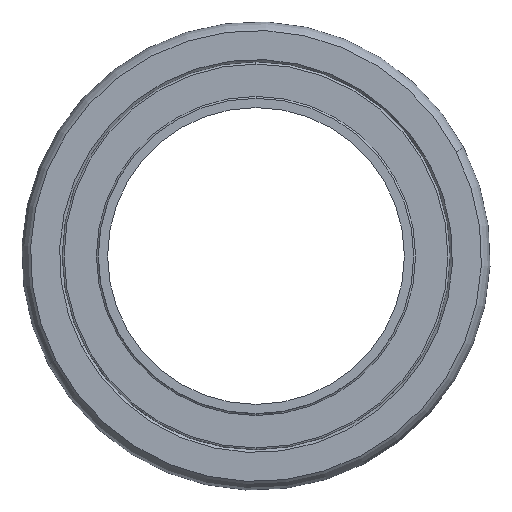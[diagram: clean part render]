
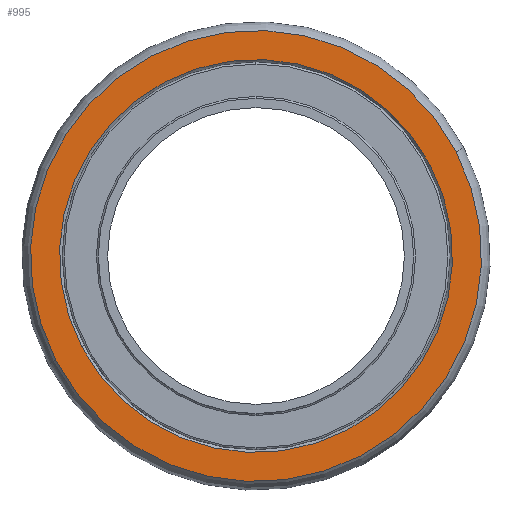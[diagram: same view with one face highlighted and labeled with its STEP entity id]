
A CAD part, left-side view. The second image highlights one B-rep face of the part: STEP entity #995.
In plain terms, the highlighted planar face has unit normal (-1, 0, 0).
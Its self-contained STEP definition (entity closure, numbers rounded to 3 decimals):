
#238=CARTESIAN_POINT('',(-5.95,21.566,-11.229));
#239=VERTEX_POINT('',#238);
#247=CARTESIAN_POINT('',(-5.95,-21.566,11.229));
#248=VERTEX_POINT('',#247);
#249=CARTESIAN_POINT('',(-5.95,0.,0.));
#250=DIRECTION('',(1.,0.,0.));
#251=DIRECTION('',(0.,-0.462,-0.887));
#252=AXIS2_PLACEMENT_3D('',#249,#250,#251);
#253=CIRCLE('',#252,24.314);
#254=EDGE_CURVE('',#239,#248,#253,.T.);
#279=CARTESIAN_POINT('',(-5.95,-11.229,-21.566));
#280=VERTEX_POINT('',#279);
#281=CARTESIAN_POINT('',(-5.95,0.,0.));
#282=DIRECTION('',(1.,0.,0.));
#283=DIRECTION('',(0.,-0.462,-0.887));
#284=AXIS2_PLACEMENT_3D('',#281,#282,#283);
#285=CIRCLE('',#284,24.314);
#286=EDGE_CURVE('',#248,#280,#285,.T.);
#288=CARTESIAN_POINT('',(-5.95,0.,0.));
#289=DIRECTION('',(1.,0.,0.));
#290=DIRECTION('',(0.,-0.462,-0.887));
#291=AXIS2_PLACEMENT_3D('',#288,#289,#290);
#292=CIRCLE('',#291,24.314);
#293=EDGE_CURVE('',#280,#239,#292,.T.);
#889=CARTESIAN_POINT('',(-5.95,-18.791,9.784));
#890=VERTEX_POINT('',#889);
#906=CARTESIAN_POINT('',(-5.95,18.791,-9.784));
#907=VERTEX_POINT('',#906);
#915=CARTESIAN_POINT('',(-5.95,-9.784,-18.791));
#916=VERTEX_POINT('',#915);
#917=CARTESIAN_POINT('',(-5.95,0.,0.));
#918=DIRECTION('',(1.0,0.,0.));
#919=DIRECTION('',(0.,-0.462,-0.887));
#920=AXIS2_PLACEMENT_3D('',#917,#918,#919);
#921=CIRCLE('',#920,21.186);
#922=EDGE_CURVE('',#916,#907,#921,.T.);
#924=CARTESIAN_POINT('',(-5.95,0.,0.));
#925=DIRECTION('',(1.0,0.,0.));
#926=DIRECTION('',(0.,-0.462,-0.887));
#927=AXIS2_PLACEMENT_3D('',#924,#925,#926);
#928=CIRCLE('',#927,21.186);
#929=EDGE_CURVE('',#890,#916,#928,.T.);
#940=CARTESIAN_POINT('',(-5.95,0.,0.));
#941=DIRECTION('',(1.0,0.,0.));
#942=DIRECTION('',(0.,-0.462,-0.887));
#943=AXIS2_PLACEMENT_3D('',#940,#941,#942);
#944=CIRCLE('',#943,21.186);
#945=EDGE_CURVE('',#907,#890,#944,.T.);
#980=CARTESIAN_POINT('',(-5.95,-10.507,-20.178));
#981=DIRECTION('',(-1.0,0.0,0.0));
#982=DIRECTION('',(0.0,0.887,-0.462));
#983=AXIS2_PLACEMENT_3D('',#980,#981,#982);
#984=PLANE('',#983);
#985=ORIENTED_EDGE('',*,*,#293,.F.);
#986=ORIENTED_EDGE('',*,*,#286,.F.);
#987=ORIENTED_EDGE('',*,*,#254,.F.);
#988=EDGE_LOOP('',(#985,#986,#987));
#989=FACE_OUTER_BOUND('',#988,.T.);
#990=ORIENTED_EDGE('',*,*,#922,.T.);
#991=ORIENTED_EDGE('',*,*,#945,.T.);
#992=ORIENTED_EDGE('',*,*,#929,.T.);
#993=EDGE_LOOP('',(#990,#991,#992));
#994=FACE_BOUND('',#993,.T.);
#995=ADVANCED_FACE('',(#989,#994),#984,.T.);
